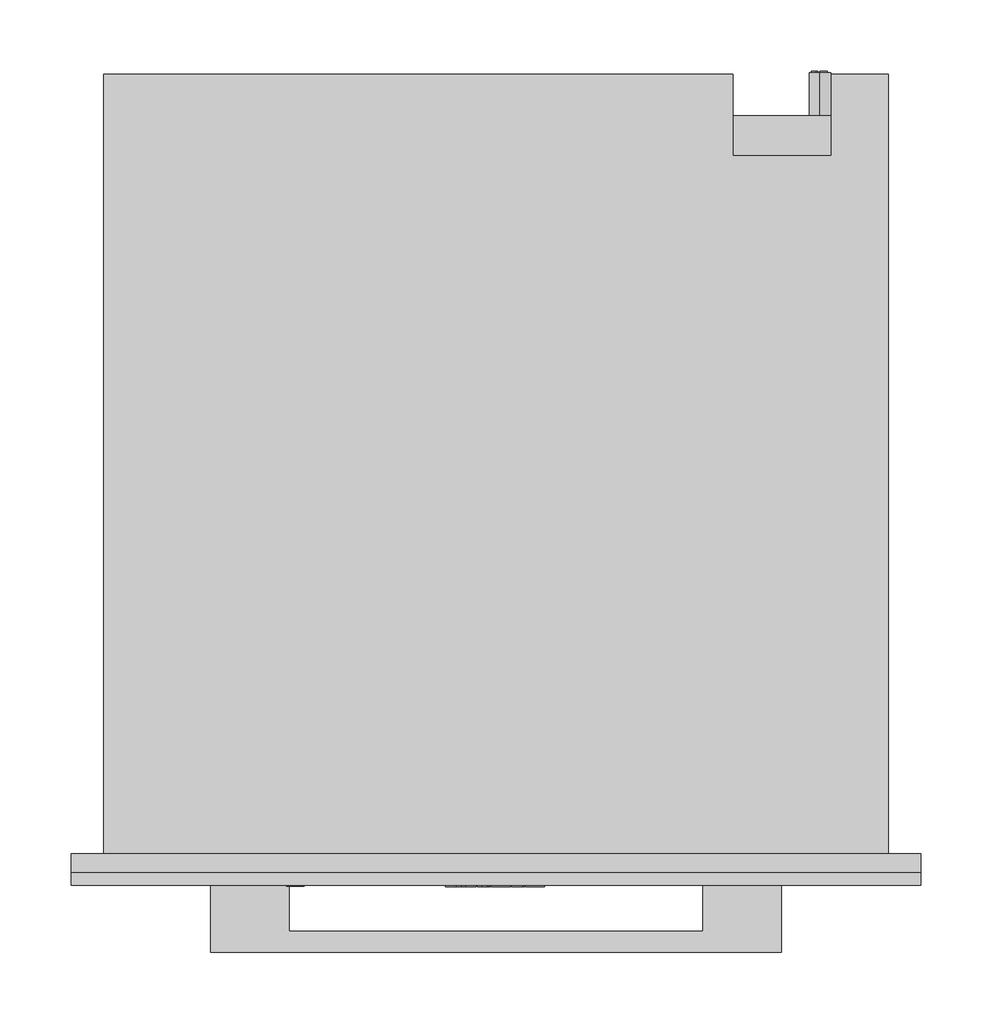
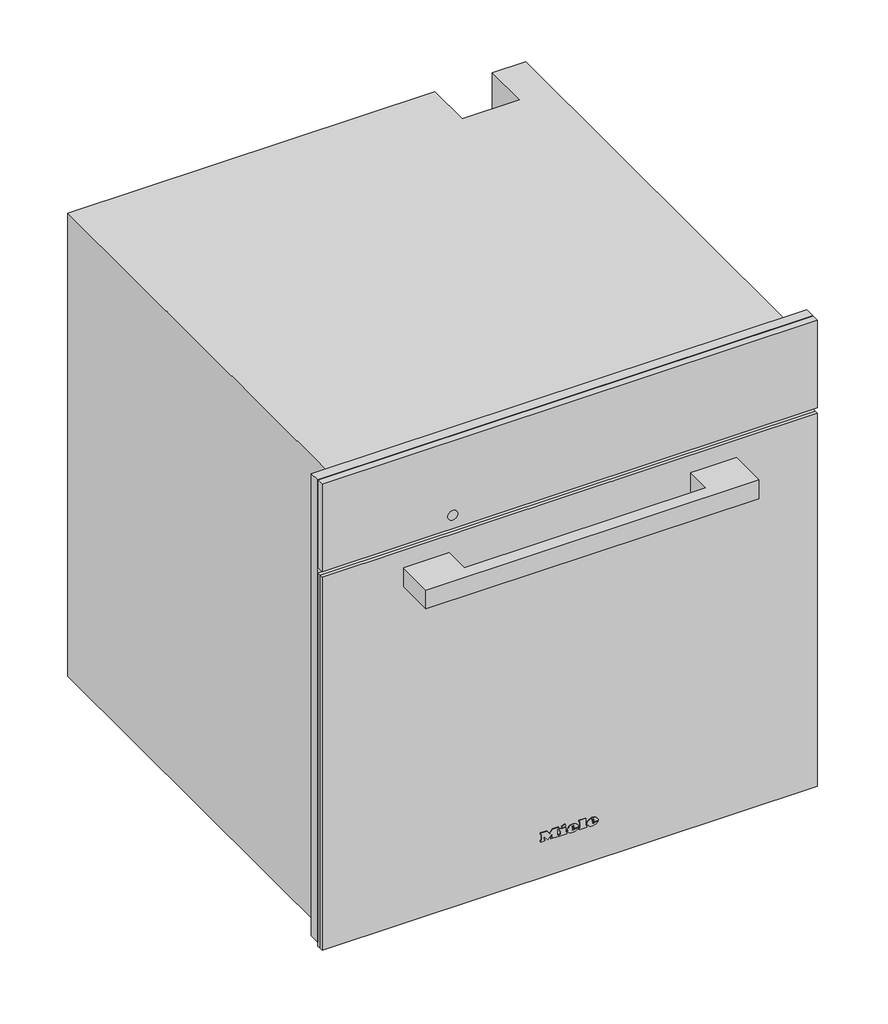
# Not in any storey: 1 proxy.
"""IFC4 building model written with IfcOpenShell, lengths in millimetres."""

import ifcopenshell
import ifcopenshell.guid

model = None  # the IFC model being written
_history = None  # IfcOwnerHistory: only IFC2X3 demands one
_inside = {}  # id of a spatial element -> (the spatial element, [elements in it])
_under = {}  # id of a project, library or spatial element -> (it, [spatial elements below it])
_declared = {}  # id of a project -> (the project, [libraries it declares])
_typed = {}  # id of a type object -> (the type object, [elements of that type])
_made_of = {}  # id of a material, layer set ... -> (it, [elements and type objects made of it])


def new_model(schema):
    """Start an empty IFC model of exactly this schema.

    Asked for "IFC4X3", IfcOpenShell would pick the latest addendum, in which some entities
    have other attributes; the version numbers below select the first issue.
    IFC2X3 requires an IfcOwnerHistory on every rooted entity: one is made here for all.
    """
    global model, _history
    if schema == "IFC4X3":
        model = ifcopenshell.file(schema_version=(4, 3, 0, 0))
    else:
        model = ifcopenshell.file(schema=schema)
    _inside.clear()
    _under.clear()
    _declared.clear()
    _typed.clear()
    _made_of.clear()
    _history = None
    if model.schema == "IFC2X3":
        org = make("IfcOrganization", Name="unknown")
        user = make(
            "IfcPersonAndOrganization",
            ThePerson=make("IfcPerson", FamilyName="unknown"),
            TheOrganization=org,
        )
        app = make(
            "IfcApplication",
            ApplicationDeveloper=org,
            Version="unknown",
            ApplicationFullName="unknown",
            ApplicationIdentifier="unknown",
        )
        _history = make(
            "IfcOwnerHistory",
            OwningUser=user,
            OwningApplication=app,
            ChangeAction="ADDED",
            CreationDate=0,
        )
    return model


def make(cls, **values):
    """One entity of the class cls with the attributes given. An attribute that is None is left unset."""
    return model.create_entity(
        cls, **{name: value for name, value in values.items() if value is not None}
    )


def rooted(cls, **values):
    """An entity with a GlobalId (a new one), such as an element, a storey or a relation."""
    return make(cls, GlobalId=ifcopenshell.guid.new(), OwnerHistory=_history, **values)


def si_unit(unit_type, name, prefix=None):
    """IfcSIUnit, for example si_unit("LENGTHUNIT", "METRE", prefix="MILLI")."""
    return make("IfcSIUnit", UnitType=unit_type, Prefix=prefix, Name=name)


def assignment(units):
    """IfcUnitAssignment: the units of a project."""
    return None if units is None else make("IfcUnitAssignment", Units=units)


def point(xyz):
    """IfcCartesianPoint."""
    return None if xyz is None else make("IfcCartesianPoint", Coordinates=xyz)


def direction(xyz):
    """IfcDirection."""
    return None if xyz is None else make("IfcDirection", DirectionRatios=xyz)


def frame(location, z_axis=None, x_axis=None):
    """IfcAxis2Placement3D, a coordinate frame: its origin and axes. An axis left out is left unset."""
    return make(
        "IfcAxis2Placement3D",
        Location=point(location),
        Axis=direction(z_axis),
        RefDirection=direction(x_axis),
    )


def frame_2d(location, x_axis=None):
    """IfcAxis2Placement2D, a coordinate frame in the plane: its origin and x axis."""
    return make(
        "IfcAxis2Placement2D", Location=point(location), RefDirection=direction(x_axis)
    )


def origin():
    """The frame at (0, 0, 0) with its axes left unset."""
    return frame((0.0, 0.0, 0.0))


def place(relative_to, where):
    """IfcLocalPlacement: puts the frame where relative to a parent placement (None: the world)."""
    return make(
        "IfcLocalPlacement", PlacementRelTo=relative_to, RelativePlacement=where
    )


def context(
    kind, dimensions, precision=None, world=None, true_north=None, identifier=None
):
    """IfcGeometricRepresentationContext, for example the 3D "Model" context."""
    return make(
        "IfcGeometricRepresentationContext",
        ContextIdentifier=identifier,
        ContextType=kind,
        CoordinateSpaceDimension=dimensions,
        Precision=precision,
        WorldCoordinateSystem=world,
        TrueNorth=true_north,
    )


def project(units=None, contexts=None):
    """IfcProject with its units and contexts."""
    return rooted(
        "IfcProject",
        Name="project",
        RepresentationContexts=contexts,
        UnitsInContext=assignment(units),
    )


def spatial(cls, under=None, at=None, **own):
    """A site, building, storey or space (cls), placed at a placement, below another one or the project."""
    s = rooted(cls, ObjectPlacement=at, **own)
    if under is not None:
        _under.setdefault(under.id(), (under, []))[1].append(s)
    return s


def polyline(points):
    """IfcPolyline through the points."""
    return make("IfcPolyline", Points=[point(p) for p in points])


def circle_curve(where, radius):
    """IfcCircle in the frame where."""
    return make("IfcCircle", Position=where, Radius=radius)


def ellipse_curve(where, semi_axis1, semi_axis2):
    """IfcEllipse in the frame where."""
    return make(
        "IfcEllipse", Position=where, SemiAxis1=semi_axis1, SemiAxis2=semi_axis2
    )


def trimmed(basis, trim1, trim2, sense, master):
    """IfcTrimmedCurve: the piece of a basis curve between two trims."""
    return make(
        "IfcTrimmedCurve",
        BasisCurve=basis,
        Trim1=trim1,
        Trim2=trim2,
        SenseAgreement=sense,
        MasterRepresentation=master,
    )


def segment(curve, same_sense, transition):
    """IfcCompositeCurveSegment."""
    return make(
        "IfcCompositeCurveSegment",
        Transition=transition,
        SameSense=same_sense,
        ParentCurve=curve,
    )


def composite_curve(segments, self_intersect=None):
    """IfcCompositeCurve: segments joined end to end."""
    return make("IfcCompositeCurve", Segments=segments, SelfIntersect=self_intersect)


def outline(outer, holes=None, kind="AREA"):
    """IfcArbitraryClosedProfileDef: a profile drawn as a closed curve; with holes, ...WithVoids."""
    if holes is None:
        return make("IfcArbitraryClosedProfileDef", ProfileType=kind, OuterCurve=outer)
    return make(
        "IfcArbitraryProfileDefWithVoids",
        ProfileType=kind,
        OuterCurve=outer,
        InnerCurves=holes,
    )


def extrude(swept, where, along, depth):
    """IfcExtrudedAreaSolid: the profile swept, set in the frame where, extruded along a direction by depth."""
    return make(
        "IfcExtrudedAreaSolid",
        SweptArea=swept,
        Position=where,
        ExtrudedDirection=direction(along),
        Depth=depth,
    )


def faces_of(points, faces, orient=None, outer=None):
    """IfcFace entities. A face is a list of loops; a loop is a list of indices into points, from 0.

    orient and outer hold one flag for each loop. By default every Orientation is true, the
    first loop of a face is its IfcFaceOuterBound and the others are IfcFaceBound.
    """
    made = []
    for i, loops in enumerate(faces):
        bounds = []
        for j, loop in enumerate(loops):
            is_outer = j == 0 if outer is None else outer[i][j]
            bounds.append(
                make(
                    "IfcFaceOuterBound" if is_outer else "IfcFaceBound",
                    Bound=make("IfcPolyLoop", Polygon=[points[k] for k in loop]),
                    Orientation=True if orient is None else orient[i][j],
                )
            )
        made.append(make("IfcFace", Bounds=bounds))
    return made


def faceted_brep(points, faces, orient=None, outer=None, voids=None):
    """IfcFacetedBrep: a solid bounded by flat faces; with voids (closed shells), ...WithVoids."""
    shared = [point(p) for p in points]
    hull = make("IfcClosedShell", CfsFaces=faces_of(shared, faces, orient, outer))
    if voids is None:
        return make("IfcFacetedBrep", Outer=hull)
    return make(
        "IfcFacetedBrepWithVoids",
        Outer=hull,
        Voids=[
            make(cls, CfsFaces=faces_of(shared, fs, o, b)) for cls, fs, o, b in voids
        ],
    )


def shape(context_of_items, identifier, shape_type, items):
    """IfcShapeRepresentation: the items that make up one representation, for example the "Body"."""
    return make(
        "IfcShapeRepresentation",
        ContextOfItems=context_of_items,
        RepresentationIdentifier=identifier,
        RepresentationType=shape_type,
        Items=items,
    )


def source(mapping_origin, context_of_items, identifier, shape_type, items):
    """IfcRepresentationMap: a shape defined once, which mapped items show again and again."""
    return make(
        "IfcRepresentationMap",
        MappingOrigin=mapping_origin,
        MappedRepresentation=shape(context_of_items, identifier, shape_type, items),
    )


def transform(
    local_origin,
    x_axis=None,
    y_axis=None,
    z_axis=None,
    scale=None,
    scale2=None,
    scale3=None,
    uniform=True,
):
    """IfcCartesianTransformationOperator3D, or its non-uniform kind. x_axis, y_axis, z_axis: its Axis1, 2, 3."""
    if uniform:
        return make(
            "IfcCartesianTransformationOperator3D",
            Axis1=direction(x_axis),
            Axis2=direction(y_axis),
            LocalOrigin=point(local_origin),
            Scale=scale,
            Axis3=direction(z_axis),
        )
    return make(
        "IfcCartesianTransformationOperator3DnonUniform",
        Axis1=direction(x_axis),
        Axis2=direction(y_axis),
        LocalOrigin=point(local_origin),
        Scale=scale,
        Axis3=direction(z_axis),
        Scale2=scale2,
        Scale3=scale3,
    )


def mapped(mapping_source, mapping_target):
    """IfcMappedItem: shows the shape of a source again, moved by a transform."""
    return make(
        "IfcMappedItem", MappingSource=mapping_source, MappingTarget=mapping_target
    )


def made_of(thing, what):
    """Note that an element or type object is made of a material, layer set ...; save() writes the relation."""
    if what is not None:
        _made_of.setdefault(what.id(), (what, []))[1].append(thing)
    return thing


def element(
    cls,
    number,
    at=None,
    inside=None,
    cuts=None,
    type_object=None,
    material=None,
    context=None,
    identifier="Body",
    shape_type=None,
    held_by="IfcProductDefinitionShape",
    body=None,
    shapes=None,
    **own,
):
    """One element of the class cls, such as IfcWall. Its Tag is "e" and its number.

    at: its placement. inside: the storey or other place that contains it. cuts: it is an
    opening in that element (IfcRelVoidsElement). A single representation is given by context,
    identifier, shape_type and body (its items); several are given by shapes. held_by: the class
    of the entity that holds the representations. save() writes the other relations.
    """
    e = rooted(cls, Tag="e%d" % number, ObjectPlacement=at, **own)
    if body is not None:
        shapes = [shape(context, identifier, shape_type, body)]
    if shapes is not None:
        e.Representation = make(held_by, Representations=shapes)
    if inside is not None:
        _inside.setdefault(inside.id(), (inside, []))[1].append(e)
    if cuts is not None:
        rooted(
            "IfcRelVoidsElement", RelatingBuildingElement=cuts, RelatedOpeningElement=e
        )
    if type_object is not None:
        _typed.setdefault(type_object.id(), (type_object, []))[1].append(e)
    return made_of(e, material)


def aggregate(whole, parts):
    """IfcRelAggregates: a whole, such as a stair, and the parts it consists of."""
    return rooted("IfcRelAggregates", RelatingObject=whole, RelatedObjects=parts)


def save(model, path):
    """Write the relations noted so far, then the file.

    IfcRelAggregates (storeys below a building ...), IfcRelContainedInSpatialStructure (elements
    in a storey), IfcRelDefinesByType, IfcRelAssociatesMaterial and IfcRelDeclares: one each for
    every whole, place, type object, material and project.
    """
    for whole, parts in _under.values():
        aggregate(whole, parts)
    for where, things in _inside.values():
        rooted(
            "IfcRelContainedInSpatialStructure",
            RelatedElements=things,
            RelatingStructure=where,
        )
    for kind, things in _typed.values():
        rooted("IfcRelDefinesByType", RelatedObjects=things, RelatingType=kind)
    for what, things in _made_of.values():
        rooted("IfcRelAssociatesMaterial", RelatedObjects=things, RelatingMaterial=what)
    for by, libraries in _declared.values():
        rooted("IfcRelDeclares", RelatingContext=by, RelatedDefinitions=libraries)
    model.write(path)


def plane_surface(at):
    """IfcPlane: the flat surface through the origin of the frame at, square to its z axis."""
    return make("IfcPlane", Position=at)


def cylinder_surface(at, radius):
    """IfcCylindricalSurface: all points at the distance radius from the z axis of the frame at."""
    return make("IfcCylindricalSurface", Position=at, Radius=radius)


def revolved_surface(curve, axis_point, axis_direction):
    """IfcSurfaceOfRevolution: the curve turned about the line through axis_point along axis_direction."""
    return make(
        "IfcSurfaceOfRevolution",
        SweptCurve=make("IfcArbitraryOpenProfileDef", ProfileType="CURVE", Curve=curve),
        AxisPosition=make("IfcAxis1Placement", Location=point(axis_point), Axis=direction(axis_direction)),
    )


def extruded_surface(curve, direction_of_extrusion, depth):
    """IfcSurfaceOfLinearExtrusion: the curve pushed along a direction by depth."""
    return make(
        "IfcSurfaceOfLinearExtrusion",
        SweptCurve=make("IfcArbitraryOpenProfileDef", ProfileType="CURVE", Curve=curve),
        ExtrudedDirection=direction(direction_of_extrusion),
        Depth=depth,
    )


def advanced_brep(points, edges, surfaces, faces):
    """IfcAdvancedBrep: a solid bounded by faces that lie on surfaces and meet in shared edges.

    An edge is (start, end): straight between two places in points (the first is 0);
    or (start, end, curve); or (start, end, curve, False) where it runs against its curve.
    A face is (place in surfaces, loops), or (place, loops, False) where it looks against
    its surface's normal. A loop lists edges by number (the first is 1), with a minus sign
    where the edge is run from its end to its start. The first loop is the outer one.
    """
    corners = [point(p) for p in points]
    vertices = [make("IfcVertexPoint", VertexGeometry=c) for c in corners]
    made = []
    for start, end, *more in edges:
        made.append(
            make(
                "IfcEdgeCurve",
                EdgeStart=vertices[start],
                EdgeEnd=vertices[end],
                EdgeGeometry=more[0] if more else make("IfcPolyline", Points=[corners[start], corners[end]]),
                SameSense=more[1] if len(more) > 1 else True,
            )
        )
    hull = []
    for where, loops, *sense in faces:
        bounds = []
        for j, loop in enumerate(loops):
            ring = [make("IfcOrientedEdge", EdgeElement=made[abs(k) - 1], Orientation=k > 0) for k in loop]
            bounds.append(
                make(
                    "IfcFaceOuterBound" if j == 0 else "IfcFaceBound",
                    Bound=make("IfcEdgeLoop", EdgeList=ring),
                    Orientation=True,
                )
            )
        hull.append(make("IfcAdvancedFace", Bounds=bounds, FaceSurface=surfaces[where], SameSense=sense[0] if sense else True))
    return make("IfcAdvancedBrep", Outer=make("IfcClosedShell", CfsFaces=hull))


def specialty_equipment_02b3a867(model_context):
    return source(origin(), model_context, "Body", "SolidModel", [
        extrude(outline(polyline([(596.0, 297.5), (596.0, -297.5), (9.0, -297.5), (9.0, 297.5), (596.0, 297.5)]), holes=[polyline([(485.0, -272.5), (485.0, 272.5), (27.0, 272.5), (27.0, -272.5), (485.0, -272.5)])]), frame((0.0, -13.0, 0.0), z_axis=(0.0, 1.0, 0.0), x_axis=(0.0, 0.0, 1.0)), (0.0, 0.0, 1.0), 13.0),
        advanced_brep(
        [(227.0, 547.0, 396.5), (227.0, 547.0, 381.5), (221.4098301, 547.0, 384.0), (225.5, 547.0, 384.0), (225.5, 547.0, 394.0), (224.4955303, 547.0, 394.0), (224.4955303, 547.0, 385.0), (221.0315043, 547.0, 385.0), (221.0315043, 547.0, 384.4582978), (232.0, 547.0, 384.0), (232.0, 547.0, 394.0), (227.0, 547.0, 394.0), (227.0, 547.0, 393.0), (231.0, 547.0, 393.0), (231.0, 547.0, 389.5), (228.0, 547.0, 389.5), (228.0, 547.0, 388.5), (231.0, 547.0, 388.5), (231.0, 547.0, 385.0), (227.0, 547.0, 385.0), (227.0, 547.0, 384.0), (227.0, 517.0, 381.5), (227.0, 517.0, 396.5), (232.0, 548.0, 394.0), (232.0, 548.0, 384.0), (227.0, 548.0, 384.0), (227.0, 548.0, 385.0), (231.0, 548.0, 385.0), (231.0, 548.0, 388.5), (228.0, 548.0, 388.5), (228.0, 548.0, 389.5), (231.0, 548.0, 389.5), (231.0, 548.0, 393.0), (227.0, 548.0, 393.0), (227.0, 548.0, 394.0), (225.5, 548.0, 384.0), (221.0315043, 548.0, 384.0), (221.0315043, 548.0, 385.0), (224.4955303, 548.0, 385.0), (224.4955303, 548.0, 394.0), (225.5, 548.0, 394.0), (221.0315043, 547.0, 384.0)],
        [
            (0, 1, circle_curve(frame((227.0, 547.0, 389.0), z_axis=(0.0, 1.0, 0.0), x_axis=(0.0, 0.0, 1.0)), 7.5)),
            (1, 2, circle_curve(frame((227.0, 547.0, 389.0), z_axis=(0.0, 1.0, 0.0), x_axis=(0.0, 0.0, 1.0)), 7.5)),
            (2, 3),
            (3, 4),
            (4, 5),
            (5, 6),
            (6, 7),
            (7, 8),
            (8, 0, circle_curve(frame((227.0, 547.0, 389.0), z_axis=(0.0, 1.0, 0.0), x_axis=(0.0, 0.0, 1.0)), 7.5)),
            (9, 10),
            (10, 11),
            (11, 12),
            (12, 13),
            (13, 14),
            (14, 15),
            (15, 16),
            (16, 17),
            (17, 18),
            (18, 19),
            (19, 20),
            (20, 9),
            (21, 22, circle_curve(frame((227.0, 517.0, 389.0), z_axis=(0.0, -1.0, 0.0), x_axis=(0.0, 0.0, 1.0)), 7.5)),
            (22, 21, circle_curve(frame((227.0, 517.0, 389.0), z_axis=(0.0, -1.0, 0.0), x_axis=(0.0, 0.0, 1.0)), 7.5)),
            (0, 22),
            (21, 1),
            (8, 2, circle_curve(frame((227.0, 547.0, 389.0), z_axis=(0.0, -1.0, 0.0), x_axis=(0.0, 0.0, 1.0)), 7.5)),
            (23, 24),
            (24, 25),
            (25, 26),
            (26, 27),
            (27, 28),
            (28, 29),
            (29, 30),
            (30, 31),
            (31, 32),
            (32, 33),
            (33, 34),
            (34, 23),
            (35, 36),
            (36, 37),
            (37, 38),
            (38, 39),
            (39, 40),
            (40, 35),
            (8, 41),
            (41, 2),
            (23, 10),
            (9, 24),
            (20, 25),
            (19, 26),
            (18, 27),
            (17, 28),
            (16, 29),
            (15, 30),
            (14, 31),
            (13, 32),
            (12, 33),
            (11, 34),
            (35, 3),
            (41, 36),
            (7, 37),
            (6, 38),
            (5, 39),
            (4, 40),
        ],
        [
            plane_surface(frame((227.0, 547.0, 396.5), z_axis=(0.0, 1.0, 0.0), x_axis=(1.0, 0.0, 0.0))),
            plane_surface(frame((227.0, 517.0, 396.5), z_axis=(0.0, -1.0, 0.0), x_axis=(-1.0, 0.0, 0.0))),
            cylinder_surface(frame((227.0, 547.0, 389.0), z_axis=(0.0, -1.0, 0.0), x_axis=(0.0, 0.0, 1.0)), 7.5),
            plane_surface(frame((232.0, 548.0, 394.0), z_axis=(0.0, 1.0, 0.0), x_axis=(0.0, 0.0, -1.0))),
            plane_surface(frame((232.0, 547.0, 394.0), z_axis=(0.0, -1.0, 0.0), x_axis=(0.0, 0.0, 1.0))),
            plane_surface(frame((232.0, 548.0, 394.0), z_axis=(1.0, 0.0, 0.0), x_axis=(0.0, -1.0, 0.0))),
            plane_surface(frame((232.0, 548.0, 384.0), z_axis=(0.0, 0.0, -1.0), x_axis=(0.0, -1.0, 0.0))),
            plane_surface(frame((227.0, 548.0, 384.0), z_axis=(-1.0, 0.0, 0.0), x_axis=(0.0, -1.0, 0.0))),
            plane_surface(frame((227.0, 548.0, 385.0), z_axis=(0.0, 0.0, 1.0), x_axis=(0.0, -1.0, 0.0))),
            plane_surface(frame((231.0, 548.0, 385.0), z_axis=(-1.0, 0.0, 0.0), x_axis=(0.0, -1.0, 0.0))),
            plane_surface(frame((231.0, 548.0, 388.5), z_axis=(0.0, 0.0, -1.0), x_axis=(0.0, -1.0, 0.0))),
            plane_surface(frame((228.0, 548.0, 388.5), z_axis=(-1.0, 0.0, 0.0), x_axis=(0.0, -1.0, 0.0))),
            plane_surface(frame((228.0, 548.0, 389.5), z_axis=(0.0, 0.0, 1.0), x_axis=(0.0, -1.0, 0.0))),
            plane_surface(frame((231.0, 548.0, 389.5), z_axis=(-1.0, 0.0, 0.0), x_axis=(0.0, -1.0, 0.0))),
            plane_surface(frame((231.0, 548.0, 393.0), z_axis=(0.0, 0.0, -1.0), x_axis=(0.0, -1.0, 0.0))),
            plane_surface(frame((227.0, 548.0, 393.0), z_axis=(-1.0, 0.0, 0.0), x_axis=(0.0, -1.0, 0.0))),
            plane_surface(frame((227.0, 548.0, 394.0), z_axis=(0.0, 0.0, 1.0), x_axis=(0.0, -1.0, 0.0))),
            plane_surface(frame((225.5, 548.0, 384.0), z_axis=(0.0, 0.0, -1.0), x_axis=(0.0, -1.0, 0.0))),
            plane_surface(frame((221.0315043, 548.0, 384.0), z_axis=(-1.0, 0.0, 0.0), x_axis=(0.0, -1.0, 0.0))),
            plane_surface(frame((221.0315043, 548.0, 385.0), z_axis=(0.0, 0.0, 1.0), x_axis=(0.0, -1.0, 0.0))),
            plane_surface(frame((224.4955303, 548.0, 385.0), z_axis=(-1.0, 0.0, 0.0), x_axis=(0.0, -1.0, 0.0))),
            plane_surface(frame((224.4955303, 548.0, 394.0), z_axis=(0.0, 0.0, 1.0), x_axis=(0.0, -1.0, 0.0))),
            plane_surface(frame((225.5, 548.0, 394.0), z_axis=(1.0, 0.0, 0.0), x_axis=(0.0, -1.0, 0.0))),
        ],
        [
            (0, [[1, 2, 3, 4, 5, 6, 7, 8, 9], [10, 11, 12, 13, 14, 15, 16, 17, 18, 19, 20, 21]]),
            (1, [[22, 23]]),
            (2, [[-1, 24, -22, 25]]),
            (2, [[-23, -24, -9, 26, -2, -25]]),
            (3, [[27, 28, 29, 30, 31, 32, 33, 34, 35, 36, 37, 38]]),
            (3, [[39, 40, 41, 42, 43, 44]]),
            (4, [[45, 46, -26]]),
            (5, [[-27, 47, -10, 48]]),
            (6, [[-28, -48, -21, 49]]),
            (7, [[-29, -49, -20, 50]]),
            (8, [[-30, -50, -19, 51]]),
            (9, [[-31, -51, -18, 52]]),
            (10, [[-32, -52, -17, 53]]),
            (11, [[-33, -53, -16, 54]]),
            (12, [[-34, -54, -15, 55]]),
            (13, [[-35, -55, -14, 56]]),
            (14, [[-36, -56, -13, 57]]),
            (15, [[-37, -57, -12, 58]]),
            (16, [[-38, -58, -11, -47]]),
            (17, [[-39, 59, -3, -46, 60]]),
            (18, [[-40, -60, -45, -8, 61]]),
            (19, [[-41, -61, -7, 62]]),
            (20, [[-42, -62, -6, 63]]),
            (21, [[-43, -63, -5, 64]]),
            (22, [[-44, -64, -4, -59]]),
        ],
    ),
        faceted_brep([(-275.0, 546.0, 0.0), (-275.0, 546.0, 588.0), (166.0, 546.0, 588.0), (166.0, 546.0, 0.0), (235.0, 546.0, 588.0), (275.0, 546.0, 588.0), (275.0, 546.0, 478.0), (235.0, 546.0, 478.0), (275.0, 0.0, 588.0), (-275.0, 0.0, 588.0), (-275.0, 0.0, 0.0), (275.0, 0.0, 0.0), (-272.5, 0.0, 485.0), (272.5, 0.0, 485.0), (272.5, 0.0, 27.0), (-272.5, 0.0, 27.0), (235.0, 489.0, 588.0), (166.0, 489.0, 588.0), (166.0, 517.0, 0.0), (275.0, 517.0, 0.0), (275.0, 517.0, 478.0), (272.5, 17.0, 485.0), (-272.5, 17.0, 485.0), (-272.5, 17.0, 27.0), (272.5, 17.0, 27.0), (231.0, 17.0, 409.0), (231.0, 17.0, 61.0), (-231.0, 17.0, 61.0), (-231.0, 17.0, 409.0), (231.0, 411.0, 409.0), (-231.0, 411.0, 409.0), (-231.0, 411.0, 61.0), (231.0, 411.0, 61.0), (235.0, 489.0, 477.0), (166.0, 489.0, 477.0), (166.0, 517.0, 477.0), (235.0, 517.0, 477.0), (235.0, 517.0, 478.0)], [[[0, 1, 2, 3]], [[4, 5, 6, 7]], [[8, 9, 10, 11], [12, 13, 14, 15]], [[9, 8, 5, 4, 16, 17, 2, 1]], [[1, 0, 10, 9]], [[11, 10, 0, 3, 18, 19]], [[8, 11, 19, 20, 6, 5]], [[21, 22, 23, 24], [25, 26, 27, 28]], [[22, 21, 13, 12]], [[23, 22, 12, 15]], [[24, 23, 15, 14]], [[21, 24, 14, 13]], [[29, 30, 31, 32]], [[29, 32, 26, 25]], [[32, 31, 27, 26]], [[31, 30, 28, 27]], [[30, 29, 25, 28]], [[16, 33, 34, 17]], [[17, 34, 35, 18, 3, 2]], [[34, 33, 36, 35]], [[33, 16, 4, 7, 37, 36]], [[37, 20, 19, 18, 35, 36]], [[20, 37, 7, 6]]]),
        advanced_brep(
        [(26.2998, -23.0, 52.7018), (26.2998, -23.0, 53.8532), (33.9264, -23.0, 53.8532), (20.6568, -23.0, 53.8532), (23.7918, -23.0, 50.0), (33.7326, -23.0, 52.7018), (30.2898, -23.0, 52.7018), (27.5766, -23.0, 51.425), (26.2998, -23.0, 55.3124), (26.2998, -23.0, 56.555), (28.2492, -23.0, 56.555), (28.2492, -23.0, 55.3124), (26.2998, -22.0, 52.7018), (27.5766, -22.0, 51.425), (30.2898, -22.0, 52.7018), (33.7326, -22.0, 52.7018), (23.7918, -22.0, 50.0), (20.6568, -22.0, 53.8532), (33.9264, -22.0, 53.8532), (26.2998, -22.0, 53.8532), (26.2998, -22.0, 55.3124), (28.2492, -22.0, 55.3124), (28.2492, -22.0, 56.555), (26.2998, -22.0, 56.555)],
        [
            (0, 1),
            (1, 2),
            (2, 3, ellipse_curve(frame((27.2916, -23.0, 53.8532), z_axis=(0.0, -1.0, 0.0), x_axis=(-1.0, 0.0, 0.0)), 6.6348, 5.4834)),
            (3, 4, circle_curve(frame((25.0686622, -23.0, 54.2408), z_axis=(0.0, -1.0, 0.0), x_axis=(0.0, 0.0, -1.0)), 4.4288556)),
            (4, 5, circle_curve(frame((27.1587808, -23.0, 57.2504), z_axis=(0.0, -1.0, 0.0), x_axis=(0.0, 0.0, -1.0)), 7.9940516)),
            (5, 6),
            (6, 7, circle_curve(frame((28.1338588, -23.0, 53.762), z_axis=(0.0, 1.0, 0.0), x_axis=(0.0, 0.0, -1.0)), 2.4025208)),
            (7, 0, circle_curve(frame((27.5766, -23.0, 52.7018), z_axis=(0.0, 1.0, 0.0), x_axis=(0.0, 0.0, -1.0)), 1.2768)),
            (8, 9),
            (9, 10, circle_curve(frame((27.2745, -23.0, 56.555), z_axis=(0.0, 1.0, 0.0), x_axis=(0.0, 0.0, -1.0)), 0.9747)),
            (10, 11),
            (11, 8),
            (12, 13, circle_curve(frame((27.5766, -22.0, 52.7018), z_axis=(0.0, -1.0, 0.0), x_axis=(0.0, 0.0, -1.0)), 1.2768)),
            (13, 14, circle_curve(frame((28.1338588, -22.0, 53.762), z_axis=(0.0, -1.0, 0.0), x_axis=(0.0, 0.0, -1.0)), 2.4025208)),
            (14, 15),
            (15, 16, circle_curve(frame((27.1587808, -22.0, 57.2504), z_axis=(0.0, 1.0, 0.0), x_axis=(0.0, 0.0, -1.0)), 7.9940516)),
            (16, 17, circle_curve(frame((25.0686622, -22.0, 54.2408), z_axis=(0.0, 1.0, 0.0), x_axis=(0.0, 0.0, -1.0)), 4.4288556)),
            (17, 18, ellipse_curve(frame((27.2916, -22.0, 53.8532), z_axis=(0.0, 1.0, 0.0), x_axis=(-1.0, 0.0, 0.0)), 6.6348, 5.4834)),
            (18, 19),
            (19, 12),
            (20, 21),
            (21, 22),
            (22, 23, circle_curve(frame((27.2745, -22.0, 56.555), z_axis=(0.0, -1.0, 0.0), x_axis=(0.0, 0.0, -1.0)), 0.9747)),
            (23, 20),
            (0, 12),
            (19, 1),
            (18, 2),
            (5, 15),
            (14, 6),
            (17, 3),
            (13, 7),
            (16, 4),
            (8, 20),
            (23, 9),
            (22, 10),
            (21, 11),
        ],
        [
            plane_surface(frame((26.2998, -23.0, 53.8532), z_axis=(0.0, -1.0, 0.0), x_axis=(0.0, 0.0, 1.0))),
            plane_surface(frame((26.2998, -22.0, 53.8532), z_axis=(0.0, 1.0, 0.0), x_axis=(0.0, 0.0, -1.0))),
            plane_surface(frame((26.2998, -23.0, 52.7018), z_axis=(1.0, 0.0, 0.0), x_axis=(0.0, 1.0, 0.0))),
            plane_surface(frame((26.2998, -23.0, 53.8532), z_axis=(0.0, 0.0, -1.0), x_axis=(0.0, 1.0, 0.0))),
            plane_surface(frame((33.7326, -23.0, 52.7018), z_axis=(0.0, 0.0, 1.0), x_axis=(0.0, 1.0, 0.0))),
            extruded_surface(trimmed(ellipse_curve(frame((27.2916, -21.0, 53.8532), z_axis=(0.0, -1.0, 0.0), x_axis=(-1.0, 0.0, 0.0)), 6.6348, 5.4834), [point((33.9264, -21.0, 53.8532))], [point((20.6568, -21.0, 53.8532))], True, "CARTESIAN"), (0.0, -1.0, 0.0), 1.0),
            revolved_surface(polyline([(28.1338588, -22.0, 51.3594792), (28.1338588, -23.0, 51.3594792)]), (28.1338588, -22.0, 53.762), (0.0, 1.0, 0.0)),
            revolved_surface(polyline([(27.5766, -22.0, 51.425), (27.5766, -23.0, 51.425)]), (27.5766, -22.0, 52.7018), (0.0, 1.0, 0.0)),
            cylinder_surface(frame((25.0686622, -22.0, 54.2408), z_axis=(0.0, -1.0, 0.0), x_axis=(0.0, 0.0, -1.0)), 4.4288556),
            cylinder_surface(frame((27.1587808, -22.0, 57.2504), z_axis=(0.0, -1.0, 0.0), x_axis=(0.0, 0.0, -1.0)), 7.9940516),
            plane_surface(frame((26.2998, -23.0, 55.3124), z_axis=(1.0, 0.0, 0.0), x_axis=(0.0, 1.0, 0.0))),
            revolved_surface(polyline([(27.2745, -22.0, 55.5803), (27.2745, -23.0, 55.5803)]), (27.2745, -22.0, 56.555), (0.0, 1.0, 0.0)),
            plane_surface(frame((28.2492, -23.0, 56.555), z_axis=(-1.0, 0.0, 0.0), x_axis=(0.0, 1.0, 0.0))),
            plane_surface(frame((28.2492, -23.0, 55.3124), z_axis=(0.0, 0.0, 1.0), x_axis=(0.0, 1.0, 0.0))),
        ],
        [
            (0, [[1, 2, 3, 4, 5, 6, 7, 8], [9, 10, 11, 12]]),
            (1, [[13, 14, 15, 16, 17, 18, 19, 20], [21, 22, 23, 24]]),
            (2, [[-1, 25, -20, 26]]),
            (3, [[-2, -26, -19, 27]]),
            (4, [[-6, 28, -15, 29]]),
            (5, [[-3, -27, -18, 30]]),
            (6, [[-7, -29, -14, 31]]),
            (7, [[-8, -31, -13, -25]]),
            (8, [[-4, -30, -17, 32]]),
            (9, [[-5, -32, -16, -28]]),
            (10, [[-9, 33, -24, 34]]),
            (11, [[-10, -34, -23, 35]]),
            (12, [[-11, -35, -22, 36]]),
            (13, [[-12, -36, -21, -33]]),
        ],
    ),
        advanced_brep(
        [(2.508, -23.0, 52.7018), (2.508, -23.0, 53.8532), (10.1346, -23.0, 53.8532), (-3.135, -23.0, 53.8532), (0.0, -23.0, 50.0), (9.9408, -23.0, 52.7018), (6.498, -23.0, 52.7018), (3.7848, -23.0, 51.425), (2.508, -23.0, 55.3124), (2.508, -23.0, 56.555), (4.4574, -23.0, 56.555), (4.4574, -23.0, 55.3124), (2.508, -22.0, 52.7018), (3.7848, -22.0, 51.425), (6.498, -22.0, 52.7018), (9.9408, -22.0, 52.7018), (0.0, -22.0, 50.0), (-3.135, -22.0, 53.8532), (10.1346, -22.0, 53.8532), (2.508, -22.0, 53.8532), (2.508, -22.0, 55.3124), (4.4574, -22.0, 55.3124), (4.4574, -22.0, 56.555), (2.508, -22.0, 56.555)],
        [
            (0, 1),
            (1, 2),
            (2, 3, ellipse_curve(frame((3.4998, -23.0, 53.8532), z_axis=(0.0, -1.0, 0.0), x_axis=(-1.0, 0.0, 0.0)), 6.6348, 5.4834)),
            (3, 4, circle_curve(frame((1.2768622, -23.0, 54.2408), z_axis=(0.0, -1.0, 0.0), x_axis=(0.0, 0.0, -1.0)), 4.4288556)),
            (4, 5, circle_curve(frame((3.3669808, -23.0, 57.2504), z_axis=(0.0, -1.0, 0.0), x_axis=(0.0, 0.0, -1.0)), 7.9940516)),
            (5, 6),
            (6, 7, circle_curve(frame((4.3420588, -23.0, 53.762), z_axis=(0.0, 1.0, 0.0), x_axis=(0.0, 0.0, -1.0)), 2.4025208)),
            (7, 0, circle_curve(frame((3.7848, -23.0, 52.7018), z_axis=(0.0, 1.0, 0.0), x_axis=(0.0, 0.0, -1.0)), 1.2768)),
            (8, 9),
            (9, 10, circle_curve(frame((3.4827, -23.0, 56.555), z_axis=(0.0, 1.0, 0.0), x_axis=(0.0, 0.0, -1.0)), 0.9747)),
            (10, 11),
            (11, 8),
            (12, 13, circle_curve(frame((3.7848, -22.0, 52.7018), z_axis=(0.0, -1.0, 0.0), x_axis=(0.0, 0.0, -1.0)), 1.2768)),
            (13, 14, circle_curve(frame((4.3420588, -22.0, 53.762), z_axis=(0.0, -1.0, 0.0), x_axis=(0.0, 0.0, -1.0)), 2.4025208)),
            (14, 15),
            (15, 16, circle_curve(frame((3.3669808, -22.0, 57.2504), z_axis=(0.0, 1.0, 0.0), x_axis=(0.0, 0.0, -1.0)), 7.9940516)),
            (16, 17, circle_curve(frame((1.2768622, -22.0, 54.2408), z_axis=(0.0, 1.0, 0.0), x_axis=(0.0, 0.0, -1.0)), 4.4288556)),
            (17, 18, ellipse_curve(frame((3.4998, -22.0, 53.8532), z_axis=(0.0, 1.0, 0.0), x_axis=(-1.0, 0.0, 0.0)), 6.6348, 5.4834)),
            (18, 19),
            (19, 12),
            (20, 21),
            (21, 22),
            (22, 23, circle_curve(frame((3.4827, -22.0, 56.555), z_axis=(0.0, -1.0, 0.0), x_axis=(0.0, 0.0, -1.0)), 0.9747)),
            (23, 20),
            (0, 12),
            (19, 1),
            (18, 2),
            (5, 15),
            (14, 6),
            (17, 3),
            (13, 7),
            (16, 4),
            (8, 20),
            (23, 9),
            (22, 10),
            (21, 11),
        ],
        [
            plane_surface(frame((2.508, -23.0, 53.8532), z_axis=(0.0, -1.0, 0.0), x_axis=(0.0, 0.0, 1.0))),
            plane_surface(frame((2.508, -22.0, 53.8532), z_axis=(0.0, 1.0, 0.0), x_axis=(0.0, 0.0, -1.0))),
            plane_surface(frame((2.508, -23.0, 52.7018), z_axis=(1.0, 0.0, 0.0), x_axis=(0.0, 1.0, 0.0))),
            plane_surface(frame((2.508, -23.0, 53.8532), z_axis=(0.0, 0.0, -1.0), x_axis=(0.0, 1.0, 0.0))),
            plane_surface(frame((9.9408, -23.0, 52.7018), z_axis=(0.0, 0.0, 1.0), x_axis=(0.0, 1.0, 0.0))),
            extruded_surface(trimmed(ellipse_curve(frame((3.4998, -21.0, 53.8532), z_axis=(0.0, -1.0, 0.0), x_axis=(-1.0, 0.0, 0.0)), 6.6348, 5.4834), [point((10.1346, -21.0, 53.8532))], [point((-3.135, -21.0, 53.8532))], True, "CARTESIAN"), (0.0, -1.0, 0.0), 1.0),
            revolved_surface(polyline([(4.3420588, -22.0, 51.3594792), (4.3420588, -23.0, 51.3594792)]), (4.3420588, -22.0, 53.762), (0.0, 1.0, 0.0)),
            revolved_surface(polyline([(3.7848, -22.0, 51.425), (3.7848, -23.0, 51.425)]), (3.7848, -22.0, 52.7018), (0.0, 1.0, 0.0)),
            cylinder_surface(frame((1.2768622, -22.0, 54.2408), z_axis=(0.0, -1.0, 0.0), x_axis=(0.0, 0.0, -1.0)), 4.4288556),
            cylinder_surface(frame((3.3669808, -22.0, 57.2504), z_axis=(0.0, -1.0, 0.0), x_axis=(0.0, 0.0, -1.0)), 7.9940516),
            plane_surface(frame((2.508, -23.0, 55.3124), z_axis=(1.0, 0.0, 0.0), x_axis=(0.0, 1.0, 0.0))),
            revolved_surface(polyline([(3.4827, -22.0, 55.5803), (3.4827, -23.0, 55.5803)]), (3.4827, -22.0, 56.555), (0.0, 1.0, 0.0)),
            plane_surface(frame((4.4574, -23.0, 56.555), z_axis=(-1.0, 0.0, 0.0), x_axis=(0.0, 1.0, 0.0))),
            plane_surface(frame((4.4574, -23.0, 55.3124), z_axis=(0.0, 0.0, 1.0), x_axis=(0.0, 1.0, 0.0))),
        ],
        [
            (0, [[1, 2, 3, 4, 5, 6, 7, 8], [9, 10, 11, 12]]),
            (1, [[13, 14, 15, 16, 17, 18, 19, 20], [21, 22, 23, 24]]),
            (2, [[-1, 25, -20, 26]]),
            (3, [[-2, -26, -19, 27]]),
            (4, [[-6, 28, -15, 29]]),
            (5, [[-3, -27, -18, 30]]),
            (6, [[-7, -29, -14, 31]]),
            (7, [[-8, -31, -13, -25]]),
            (8, [[-4, -30, -17, 32]]),
            (9, [[-5, -32, -16, -28]]),
            (10, [[-9, 33, -24, 34]]),
            (11, [[-10, -34, -23, 35]]),
            (12, [[-11, -35, -22, 36]]),
            (13, [[-12, -36, -21, -33]]),
        ],
    ),
        extrude(outline(polyline([(60.7274, -9.9522), (58.8806, -9.0858), (60.6818, -5.2212), (62.5286, -6.0762), (60.7274, -9.9522)])), frame((0.0, -23.0, 0.0), z_axis=(0.0, 1.0, 0.0), x_axis=(0.0, 0.0, 1.0)), (0.0, 0.0, 1.0), 1.0),
        extrude(outline(polyline([(58.6298, -12.768), (56.5892, -12.768), (56.5892, -11.4114), (51.9152, -11.4114), (51.9152, -12.768), (50.0, -12.768), (50.0, -3.7734), (51.9152, -3.7734), (51.9152, -5.0958), (58.6298, -5.0958), (58.6298, -12.768)])), frame((0.0, -23.0, 0.0), z_axis=(0.0, 1.0, 0.0), x_axis=(0.0, 0.0, 1.0)), (0.0, 0.0, 1.0), 1.0),
        extrude(outline(polyline([(59.5418, 10.773), (59.5418, 12.141), (51.9152, 12.141), (51.9152, 10.773), (50.0, 10.773), (50.0, 20.0184), (51.9152, 20.0184), (51.9152, 18.6162), (61.4, 18.6162), (61.4, 10.773), (59.5418, 10.773)])), frame((0.0, -23.0, 0.0), z_axis=(0.0, 1.0, 0.0), x_axis=(0.0, 0.0, 1.0)), (0.0, 0.0, 1.0), 1.0),
        extrude(outline(polyline([(59.5418, -35.4882), (59.5418, -34.1088), (51.9152, -34.1088), (51.9152, -35.4882), (50.0, -35.4882), (50.0, -30.4722), (51.9152, -30.4722), (51.9152, -31.8402), (56.7429247, -31.8402), (50.0, -26.7444), (56.9402223, -21.6258), (51.9152, -21.6258), (51.9152, -23.028), (50.0, -23.028), (50.0, -13.9308), (51.9152, -13.9308), (51.9152, -15.3786), (59.5418, -15.3786), (59.5418, -13.9308), (61.4, -13.9308), (61.4, -20.8734), (57.125, -24.2022), (61.4, -27.5424), (61.4, -35.4882), (59.5418, -35.4882)])), frame((0.0, -23.0, 0.0), z_axis=(0.0, 1.0, 0.0), x_axis=(0.0, 0.0, 1.0)), (0.0, 0.0, 1.0), 1.0),
        extrude(outline(polyline([(297.5, -22.0), (-297.5, -22.0), (-297.5, -13.0), (297.5, -13.0), (297.5, -22.0)])), frame((0.0, 0.0, 485.0), z_axis=(0.0, 0.0, 1.0), x_axis=(1.0, 0.0, 0.0)), (0.0, 0.0, 1.0), 111.0),
        extrude(outline(composite_curve([segment(trimmed(circle_curve(frame_2d((502.0, -140.5745637)), 6.0), [point((502.0, -146.5745637))], [point((502.0, -134.5745637))], False, "CARTESIAN"), True, "CONTINUOUS"), segment(trimmed(circle_curve(frame_2d((502.0, -140.5745637)), 6.0), [point((502.0, -134.5745637))], [point((502.0, -146.5745637))], False, "CARTESIAN"), True, "CONTINUOUS")], self_intersect=False)), frame((0.0, -22.5, 0.0), z_axis=(0.0, 1.0, 0.0), x_axis=(0.0, 0.0, 1.0)), (0.0, 0.0, 1.0), 1.0),
        extrude(outline(polyline([(-297.5, -18.0), (297.5, -18.0), (297.5, -22.0), (-297.5, -22.0), (-297.5, -18.0)])), frame((0.0, 0.0, 4.0), z_axis=(0.0, 0.0, 1.0), x_axis=(1.0, 0.0, 0.0)), (0.0, 0.0, 1.0), 474.0),
        extrude(outline(polyline([(297.5, -18.0), (-297.5, -18.0), (-297.5, -13.0), (297.5, -13.0), (297.5, -18.0)])), frame((0.0, 0.0, 4.0), z_axis=(0.0, 0.0, 1.0), x_axis=(1.0, 0.0, 0.0)), (0.0, 0.0, 1.0), 474.0),
        extrude(outline(polyline([(-200.0, -69.0), (-200.0, -22.0), (-145.0, -22.0), (-145.0, -54.0), (145.0, -54.0), (145.0, -22.0), (200.0, -22.0), (200.0, -69.0), (-200.0, -69.0)])), frame((0.0, 0.0, 432.0), z_axis=(0.0, 0.0, 1.0), x_axis=(1.0, 0.0, 0.0)), (0.0, 0.0, 1.0), 24.0),
    ])


model = new_model("IFC4")

# Units and contexts
model_context = context("Model", 3, world=origin())
ifc_project = project(units=[si_unit("LENGTHUNIT", "METRE", prefix="MILLI")], contexts=[model_context])

# Site, building
site = spatial("IfcSite", under=ifc_project)
building = spatial("IfcBuilding", under=site)

# Proxy
placement = place(None, origin())
specialty_equipment_shape = specialty_equipment_02b3a867(model_context)
element("IfcBuildingElementProxy", 1, Name="12108620_BNE_DGC7860HCPro_GRGR : 23786039_BNE_12108620_DGC7860HCPro_GRGR", ObjectType="12108620_BNE_DGC7860HCPro_GRGR : 23786039_BNE_12108620_DGC7860HCPro_GRGR", at=placement, inside=building, context=model_context, shape_type="MappedRepresentation", body=[
    mapped(specialty_equipment_shape, transform((0.0, 0.0, 0.0), x_axis=(1.0, 0.0, 0.0), y_axis=(0.0, 1.0, 0.0), z_axis=(0.0, 0.0, 1.0))),
])

save(model, "model.ifc")
